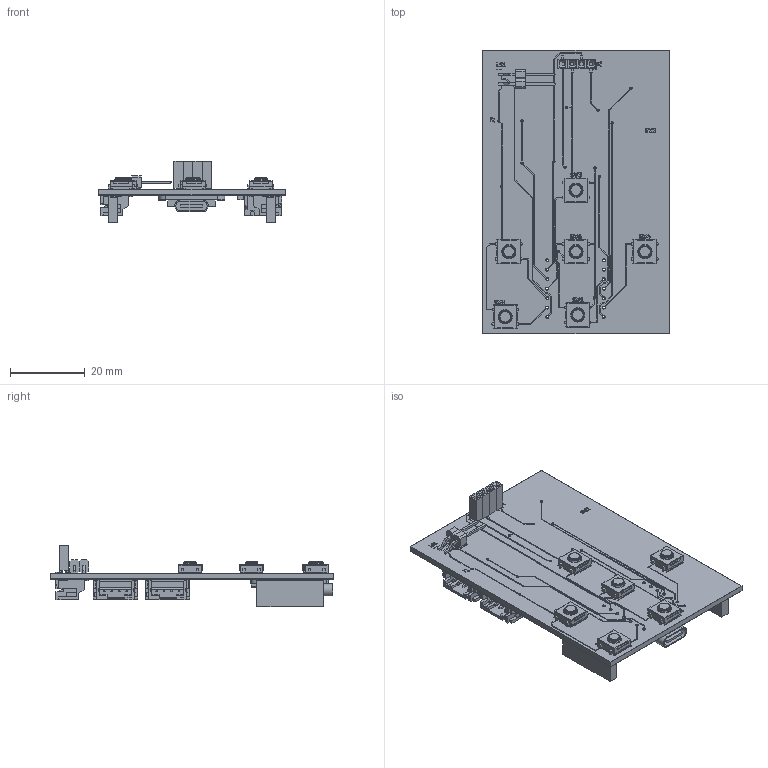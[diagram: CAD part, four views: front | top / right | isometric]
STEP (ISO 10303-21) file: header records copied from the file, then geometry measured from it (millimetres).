
FILE_DESCRIPTION(('KiCad electronic assembly'),'2;1');
FILE_NAME('gameboy less goiii.step','2026-03-03T14:06:05',('Pcbnew'),( 'Kicad'),'Open CASCADE STEP processor 7.9','KiCad to STEP converter' ,'Unknown');
FILE_SCHEMA(('AUTOMOTIVE_DESIGN { 1 0 10303 214 1 1 1 1 }'));
Length unit declared in the file: millimetre
Products named in the file (55): gameboy less goiii 1; Switch_Omron-B3SN-3112P; Base; Leads; Lead; Body002; Body003; Body004; Button; Cover; PinSocket-01x04_P2.54mm_Vertical_SMD; gameboy less goiii 1.7.1; gameboy less goiii 1.7.2; gameboy less goiii 1.7.3; gameboy less goiii 1.7.4; Header_SMD_01x02_P2.54mm_Horizontal_Male; gameboy less goiii 1.8.1; gameboy less goiii 1.8.2; S4B-PH-SM4-TB; SxB-PH-SM4-TB white_4; PinSocket_1x07_P2.54mm_Vertical_SMD_Pin1Right; Seeed_XIAO-nRF52840_Sense; SoC_nRF_Sense; Mic_nRF_Sense; Antenna_nRF_Sense; XIAO_Generic; Board; USB; Contact; Contact Clones; Body007; Body008; Body009; Body010; Body011; Body012; Body013; Body014; Body015; Body016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
Assembly tree (64 placements, depth 5):
  gameboy less goiii 1
    Switch_Omron-B3SN-3112P  x6
      Base
      Leads
        Lead
        Body002
        Body003
        Body004
      Button
      Cover
    PinSocket-01x04_P2.54mm_Vertical_SMD
      gameboy less goiii 1.7.1
      gameboy less goiii 1.7.2
      gameboy less goiii 1.7.3
      gameboy less goiii 1.7.4
    Header_SMD_01x02_P2.54mm_Horizontal_Male
      gameboy less goiii 1.8.1
      gameboy less goiii 1.8.2
    S4B-PH-SM4-TB  x4
      SxB-PH-SM4-TB white_4
    PinSocket_1x07_P2.54mm_Vertical_SMD_Pin1Right  x2
    Seeed_XIAO-nRF52840_Sense
      SoC_nRF_Sense
      Mic_nRF_Sense
      Antenna_nRF_Sense
      XIAO_Generic
        Board
        USB
        Contact
        Contact Clones
          Body007
          Body008
          Body009
          Body010
          Body011
          Body012
          Body013
          Body014
          Body015
          Body016
          Body017
          Body018
          Body019
    Capacitor-1206  x2
      Body
      Contact
      ContactClone
    S3B-PH-SM4-TB
    gameboy less goiii_copper
    gameboy less goiii_via
    gameboy less goiii_silkscreen
    gameboy less goiii_silkscreen
    gameboy less goiii_soldermask
    gameboy less goiii_soldermask
    gameboy less goiii_PCB
Bounding box: 50 x 76 x 16.58 mm (x, y, z)
Volume: 9018.4 mm3; surface area: 24734.7 mm2
Topology: 172 solids, 302 shells, 3633 faces, 10691 edges, 7535 vertices
Faces by surface type: plane 3066, cylinder 539, torus 18, cone 6, revolution 4
Full cylindrical faces by diameter (mm): 0.25 x15, 0.275 x30, 0.3 x30, 0.5 x1, 0.7 x14, 0.8 x42, 3 x12
Entity records: 89124 total; most frequent: CARTESIAN_POINT 15472, DIRECTION 13787, ORIENTED_EDGE 13435, EDGE_CURVE 7512, LINE 6137, VECTOR 6137, VERTEX_POINT 5480, AXIS2_PLACEMENT_3D 3823
